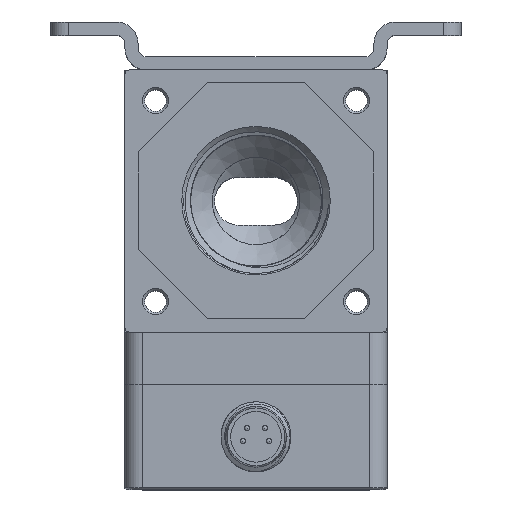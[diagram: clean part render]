
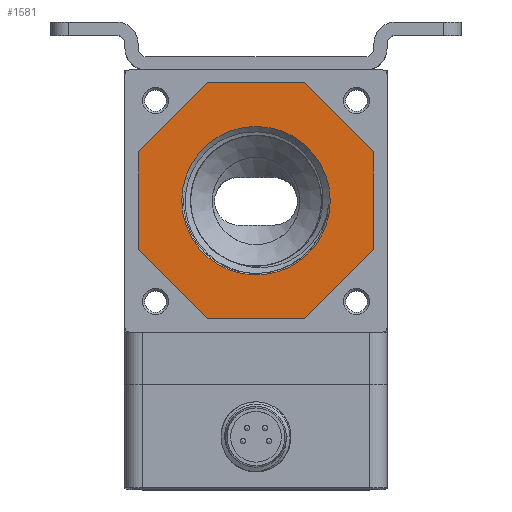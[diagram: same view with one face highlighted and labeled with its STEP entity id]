
A CAD part, top view. The second image highlights one B-rep face of the part: STEP entity #1581.
In plain terms, the highlighted planar face has unit normal (0, 0, 1).
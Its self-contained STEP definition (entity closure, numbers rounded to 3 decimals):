
#297=PLANE('',#21060);
#1090=FACE_BOUND('',#3892,.T.);
#1091=FACE_BOUND('',#3893,.T.);
#1581=ADVANCED_FACE('',(#1090,#1091),#297,.T.);
#3892=EDGE_LOOP('',(#6247));
#3893=EDGE_LOOP('',(#6248,#6249,#6250,#6251,#6252,#6253,#6254,#6255));
#5747=CIRCLE('',#21059,8.5);
#6247=ORIENTED_EDGE('',*,*,#13965,.T.);
#6248=ORIENTED_EDGE('',*,*,#13966,.T.);
#6249=ORIENTED_EDGE('',*,*,#13967,.T.);
#6250=ORIENTED_EDGE('',*,*,#13968,.T.);
#6251=ORIENTED_EDGE('',*,*,#13969,.T.);
#6252=ORIENTED_EDGE('',*,*,#13970,.T.);
#6253=ORIENTED_EDGE('',*,*,#13971,.T.);
#6254=ORIENTED_EDGE('',*,*,#13972,.T.);
#6255=ORIENTED_EDGE('',*,*,#13973,.T.);
#11994=VERTEX_POINT('',#28196);
#11995=VERTEX_POINT('',#28198);
#11996=VERTEX_POINT('',#28199);
#11997=VERTEX_POINT('',#28201);
#11998=VERTEX_POINT('',#28203);
#11999=VERTEX_POINT('',#28205);
#12000=VERTEX_POINT('',#28207);
#12001=VERTEX_POINT('',#28209);
#12002=VERTEX_POINT('',#28211);
#13965=EDGE_CURVE('',#11994,#11994,#5747,.T.);
#13966=EDGE_CURVE('',#11995,#11996,#16831,.T.);
#13967=EDGE_CURVE('',#11996,#11997,#16832,.T.);
#13968=EDGE_CURVE('',#11997,#11998,#16833,.T.);
#13969=EDGE_CURVE('',#11998,#11999,#16834,.T.);
#13970=EDGE_CURVE('',#11999,#12000,#16835,.T.);
#13971=EDGE_CURVE('',#12000,#12001,#16836,.T.);
#13972=EDGE_CURVE('',#12001,#12002,#16837,.T.);
#13973=EDGE_CURVE('',#12002,#11995,#16838,.T.);
#16831=LINE('',#28197,#18889);
#16832=LINE('',#28200,#18890);
#16833=LINE('',#28202,#18891);
#16834=LINE('',#28204,#18892);
#16835=LINE('',#28206,#18893);
#16836=LINE('',#28208,#18894);
#16837=LINE('',#28210,#18895);
#16838=LINE('',#28212,#18896);
#18889=VECTOR('',#22591,1.);
#18890=VECTOR('',#22592,1.);
#18891=VECTOR('',#22593,1.);
#18892=VECTOR('',#22594,1.);
#18893=VECTOR('',#22595,1.);
#18894=VECTOR('',#22596,1.);
#18895=VECTOR('',#22597,1.);
#18896=VECTOR('',#22598,1.);
#21059=AXIS2_PLACEMENT_3D('',#28195,#22589,#22590);
#21060=AXIS2_PLACEMENT_3D('',#28213,#22599,#22600);
#22589=DIRECTION('',(0.,0.,-1.));
#22590=DIRECTION('',(1.,0.,0.));
#22591=DIRECTION('',(0.,-1.,0.));
#22592=DIRECTION('',(0.707,-0.707,0.));
#22593=DIRECTION('',(1.,0.,0.));
#22594=DIRECTION('',(0.707,0.707,0.));
#22595=DIRECTION('',(0.,1.,0.));
#22596=DIRECTION('',(-0.707,0.707,0.));
#22597=DIRECTION('',(-1.,0.,0.));
#22598=DIRECTION('',(-0.707,-0.707,0.));
#22599=DIRECTION('',(0.,0.,1.));
#22600=DIRECTION('',(-1.,0.,0.));
#28195=CARTESIAN_POINT('',(2.5,0.,52.));
#28196=CARTESIAN_POINT('',(11.,0.,52.));
#28197=CARTESIAN_POINT('',(-11.,5.592,52.));
#28198=CARTESIAN_POINT('',(-11.,5.592,52.));
#28199=CARTESIAN_POINT('',(-11.,-5.592,52.));
#28200=CARTESIAN_POINT('',(-11.,-5.592,52.));
#28201=CARTESIAN_POINT('',(-3.092,-13.5,52.));
#28202=CARTESIAN_POINT('',(-3.092,-13.5,52.));
#28203=CARTESIAN_POINT('',(8.092,-13.5,52.));
#28204=CARTESIAN_POINT('',(8.092,-13.5,52.));
#28205=CARTESIAN_POINT('',(16.,-5.592,52.));
#28206=CARTESIAN_POINT('',(16.,-5.592,52.));
#28207=CARTESIAN_POINT('',(16.,5.592,52.));
#28208=CARTESIAN_POINT('',(16.,5.592,52.));
#28209=CARTESIAN_POINT('',(8.092,13.5,52.));
#28210=CARTESIAN_POINT('',(8.092,13.5,52.));
#28211=CARTESIAN_POINT('',(-3.092,13.5,52.));
#28212=CARTESIAN_POINT('',(-3.092,13.5,52.));
#28213=CARTESIAN_POINT('',(0.,0.,52.));
